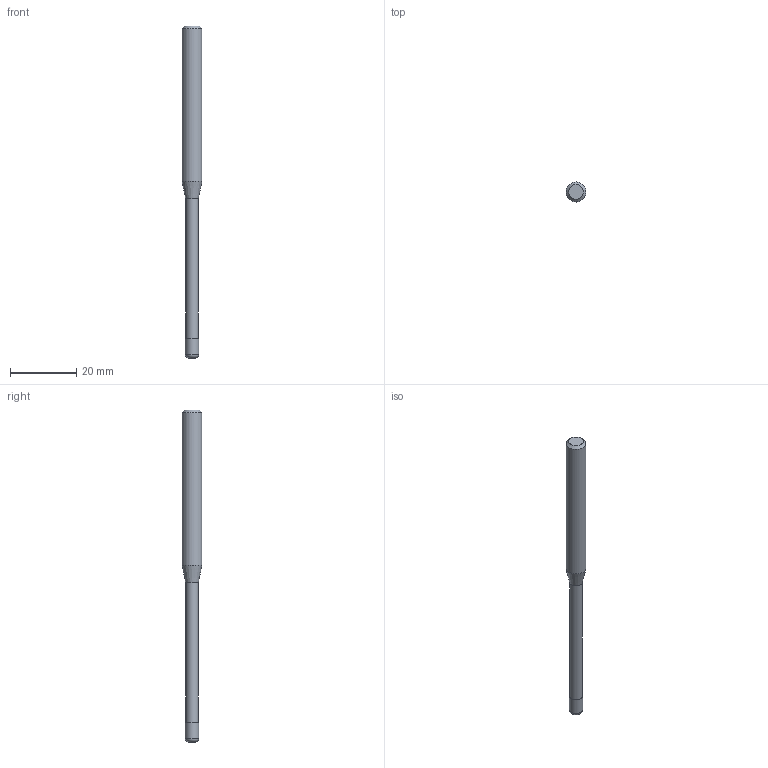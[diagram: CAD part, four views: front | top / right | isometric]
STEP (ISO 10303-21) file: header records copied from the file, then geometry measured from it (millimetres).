
FILE_DESCRIPTION((''),'2;1');
FILE_NAME('C:\Users\nsx150\AppData\Local\Temp\Mastercam 2021\17T8Q8S9EB\TEMP.step','2021-04-21T14:40:15',(''),(''),'STEP Write','Mastercam 2021 ... CNC Software, Inc.','');
FILE_SCHEMA(('AUTOMOTIVE_DESIGN'));
Length unit declared in the file: millimetre
Products named in the file (1): None
Bounding box: 6 x 6 x 100 mm (x, y, z)
Volume: 1967 mm3; surface area: 1590.1 mm2
Topology: 2 solids, 2 shells, 10 faces, 14 edges, 8 vertices
Faces by surface type: plane 4, cylinder 3, cone 2, torus 1
Full cylindrical faces by diameter (mm): 3.8 x1, 4 x1, 6 x1
Entity records: 232 total; most frequent: DIRECTION 40, CARTESIAN_POINT 28, AXIS2_PLACEMENT_3D 20, ORIENTED_EDGE 16, EDGE_LOOP 16, STYLED_ITEM 13, ADVANCED_FACE 10, FACE_BOUND 10
